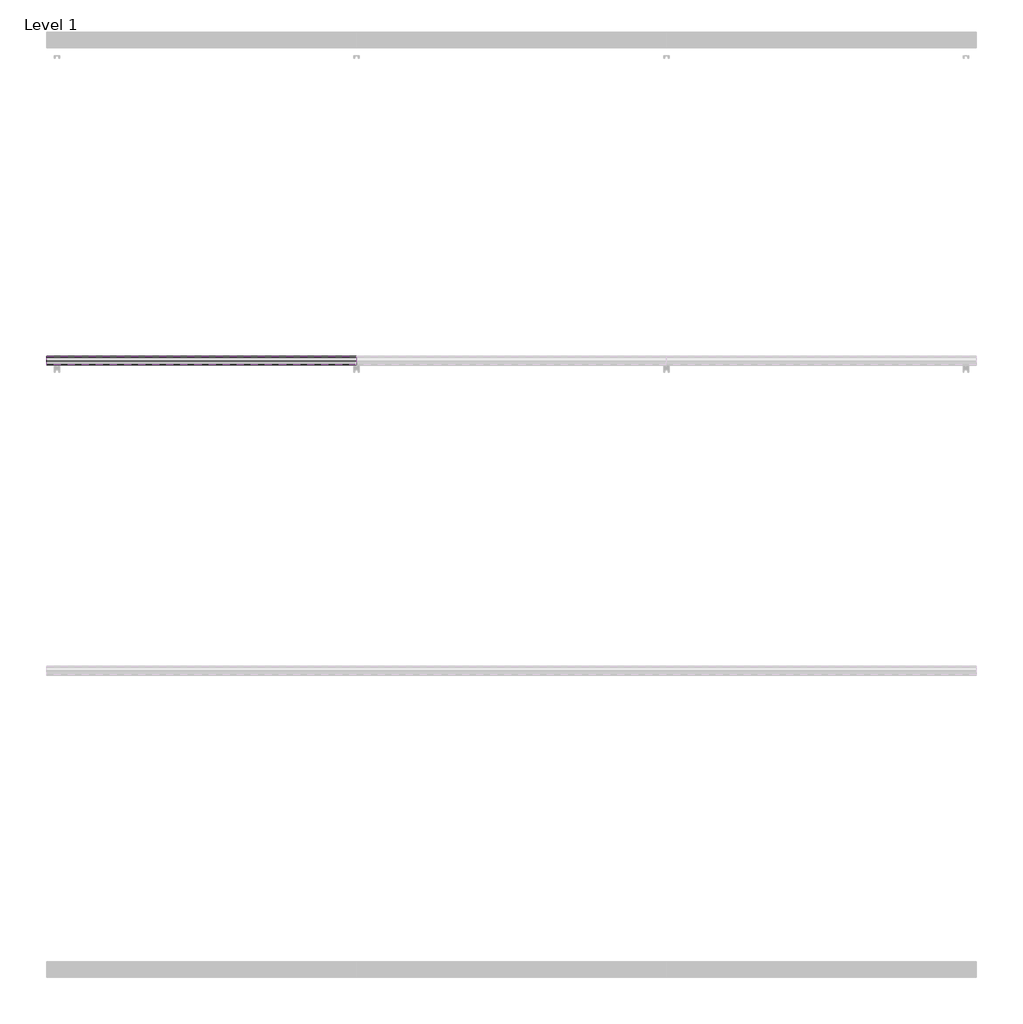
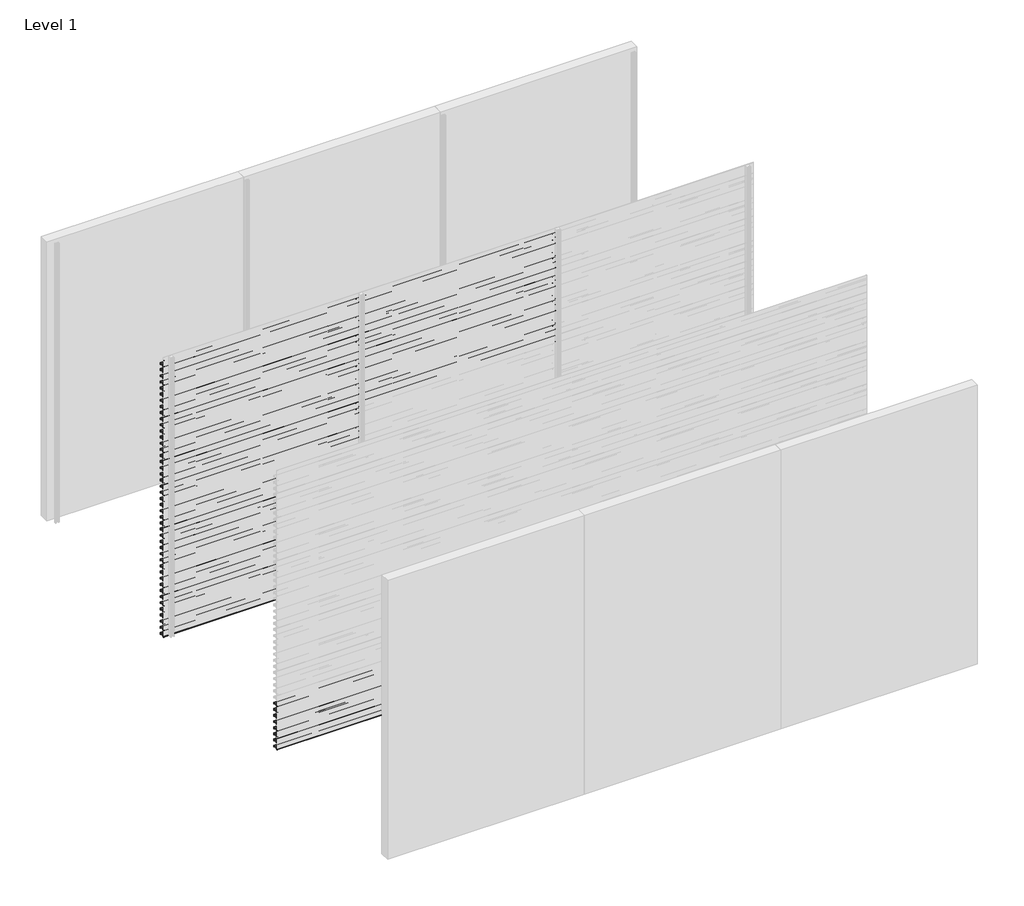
# One storey, part 21 of 27: 71 proxies.
"""IFC4 building model written with IfcOpenShell, lengths in millimetres."""

from ifc_helpers import new_model, si_unit, frame, origin, place, context, project, spatial, polyline, outline, extrude, element, save

model = new_model("IFC4")

# Units and contexts
model_context = context("Model", 3, world=origin())
ifc_project = project(units=[si_unit("LENGTHUNIT", "METRE", prefix="MILLI")], contexts=[model_context])

# Site, building, storey
site = spatial("IfcSite", under=ifc_project)
building = spatial("IfcBuilding", under=site)
storey = spatial("IfcBuildingStorey", under=building, Name="Level 1", Elevation=0.0)

# Proxies
placement = place(None, origin())
element("IfcBuildingElementProxy", 1, Name="Wall Sweeps", at=placement, inside=storey, context=model_context, shape_type="SweptSolid", body=[
    extrude(outline(polyline([(-11943.0, 2913.2), (-11943.0, 2893.5), (-11944.25, 2894.5866084), (-11944.25, 2912.4872415), (-11963.0322086, 2925.6010889), (-11995.1332975, 2893.5), (-11996.0525363, 2894.4192388), (-11964.1148087, 2926.3569665), (-11998.0, 2950.0158044), (-11998.0, 2970.0), (-11996.75, 2970.0), (-11996.75, 2950.7285629), (-11943.0, 2913.2)])), frame((0.0, 0.0, 0.0), z_axis=(1.0, 0.0, 0.0), x_axis=(0.0, 1.0, 0.0)), (0.0, 0.0, 1.0), 2000.0),
])
element("IfcBuildingElementProxy", 2, Name="Wall Sweeps", at=placement, inside=storey, context=model_context, shape_type="SweptSolid", body=[
    extrude(outline(polyline([(-11943.0, 2847.2), (-11943.0, 2827.5), (-11944.25, 2828.5866084), (-11944.25, 2846.4872415), (-11963.0322086, 2859.6010889), (-11995.1332975, 2827.5), (-11996.0525363, 2828.4192388), (-11964.1148087, 2860.3569665), (-11998.0, 2884.0158044), (-11998.0, 2904.0), (-11996.75, 2904.0), (-11996.75, 2884.7285629), (-11943.0, 2847.2)])), frame((0.0, 0.0, 0.0), z_axis=(1.0, 0.0, 0.0), x_axis=(0.0, 1.0, 0.0)), (0.0, 0.0, 1.0), 2000.0),
])
element("IfcBuildingElementProxy", 3, Name="Wall Sweeps", at=placement, inside=storey, context=model_context, shape_type="SweptSolid", body=[
    extrude(outline(polyline([(-11943.0, 2781.2), (-11943.0, 2761.5), (-11944.25, 2762.5866084), (-11944.25, 2780.4872415), (-11963.0322086, 2793.6010889), (-11995.1332975, 2761.5), (-11996.0525363, 2762.4192388), (-11964.1148087, 2794.3569665), (-11998.0, 2818.0158044), (-11998.0, 2838.0), (-11996.75, 2838.0), (-11996.75, 2818.7285629), (-11943.0, 2781.2)])), frame((0.0, 0.0, 0.0), z_axis=(1.0, 0.0, 0.0), x_axis=(0.0, 1.0, 0.0)), (0.0, 0.0, 1.0), 2000.0),
])
element("IfcBuildingElementProxy", 4, Name="Wall Sweeps", at=placement, inside=storey, context=model_context, shape_type="SweptSolid", body=[
    extrude(outline(polyline([(-11943.0, 2715.2), (-11943.0, 2695.5), (-11944.25, 2696.5866084), (-11944.25, 2714.4872415), (-11963.0322086, 2727.6010889), (-11995.1332975, 2695.5), (-11996.0525363, 2696.4192388), (-11964.1148087, 2728.3569665), (-11998.0, 2752.0158044), (-11998.0, 2772.0), (-11996.75, 2772.0), (-11996.75, 2752.7285629), (-11943.0, 2715.2)])), frame((0.0, 0.0, 0.0), z_axis=(1.0, 0.0, 0.0), x_axis=(0.0, 1.0, 0.0)), (0.0, 0.0, 1.0), 2000.0),
])
element("IfcBuildingElementProxy", 5, Name="Wall Sweeps", at=placement, inside=storey, context=model_context, shape_type="SweptSolid", body=[
    extrude(outline(polyline([(-11943.0, 2649.2), (-11943.0, 2629.5), (-11944.25, 2630.5866084), (-11944.25, 2648.4872415), (-11963.0322086, 2661.6010889), (-11995.1332975, 2629.5), (-11996.0525363, 2630.4192388), (-11964.1148087, 2662.3569665), (-11998.0, 2686.0158044), (-11998.0, 2706.0), (-11996.75, 2706.0), (-11996.75, 2686.7285629), (-11943.0, 2649.2)])), frame((0.0, 0.0, 0.0), z_axis=(1.0, 0.0, 0.0), x_axis=(0.0, 1.0, 0.0)), (0.0, 0.0, 1.0), 2000.0),
])
element("IfcBuildingElementProxy", 6, Name="Wall Sweeps", at=placement, inside=storey, context=model_context, shape_type="SweptSolid", body=[
    extrude(outline(polyline([(-11943.0, 2583.2), (-11943.0, 2563.5), (-11944.25, 2564.5866084), (-11944.25, 2582.4872415), (-11963.0322086, 2595.6010889), (-11995.1332975, 2563.5), (-11996.0525363, 2564.4192388), (-11964.1148087, 2596.3569665), (-11998.0, 2620.0158044), (-11998.0, 2640.0), (-11996.75, 2640.0), (-11996.75, 2620.7285629), (-11943.0, 2583.2)])), frame((0.0, 0.0, 0.0), z_axis=(1.0, 0.0, 0.0), x_axis=(0.0, 1.0, 0.0)), (0.0, 0.0, 1.0), 2000.0),
])
element("IfcBuildingElementProxy", 7, Name="Wall Sweeps", at=placement, inside=storey, context=model_context, shape_type="SweptSolid", body=[
    extrude(outline(polyline([(-11943.0, 2517.2), (-11943.0, 2497.5), (-11944.25, 2498.5866084), (-11944.25, 2516.4872415), (-11963.0322086, 2529.6010889), (-11995.1332975, 2497.5), (-11996.0525363, 2498.4192388), (-11964.1148087, 2530.3569665), (-11998.0, 2554.0158044), (-11998.0, 2574.0), (-11996.75, 2574.0), (-11996.75, 2554.7285629), (-11943.0, 2517.2)])), frame((0.0, 0.0, 0.0), z_axis=(1.0, 0.0, 0.0), x_axis=(0.0, 1.0, 0.0)), (0.0, 0.0, 1.0), 2000.0),
])
element("IfcBuildingElementProxy", 8, Name="Wall Sweeps", at=placement, inside=storey, context=model_context, shape_type="SweptSolid", body=[
    extrude(outline(polyline([(-11943.0, 2451.2), (-11943.0, 2431.5), (-11944.25, 2432.5866084), (-11944.25, 2450.4872415), (-11963.0322086, 2463.6010889), (-11995.1332975, 2431.5), (-11996.0525363, 2432.4192388), (-11964.1148087, 2464.3569665), (-11998.0, 2488.0158044), (-11998.0, 2508.0), (-11996.75, 2508.0), (-11996.75, 2488.7285629), (-11943.0, 2451.2)])), frame((0.0, 0.0, 0.0), z_axis=(1.0, 0.0, 0.0), x_axis=(0.0, 1.0, 0.0)), (0.0, 0.0, 1.0), 2000.0),
])
element("IfcBuildingElementProxy", 9, Name="Wall Sweeps", at=placement, inside=storey, context=model_context, shape_type="SweptSolid", body=[
    extrude(outline(polyline([(-11943.0, 2385.2), (-11943.0, 2365.5), (-11944.25, 2366.5866084), (-11944.25, 2384.4872415), (-11963.0322086, 2397.6010889), (-11995.1332975, 2365.5), (-11996.0525363, 2366.4192388), (-11964.1148087, 2398.3569665), (-11998.0, 2422.0158044), (-11998.0, 2442.0), (-11996.75, 2442.0), (-11996.75, 2422.7285629), (-11943.0, 2385.2)])), frame((0.0, 0.0, 0.0), z_axis=(1.0, 0.0, 0.0), x_axis=(0.0, 1.0, 0.0)), (0.0, 0.0, 1.0), 2000.0),
])
element("IfcBuildingElementProxy", 10, Name="Wall Sweeps", at=placement, inside=storey, context=model_context, shape_type="SweptSolid", body=[
    extrude(outline(polyline([(-11943.0, 2319.2), (-11943.0, 2299.5), (-11944.25, 2300.5866084), (-11944.25, 2318.4872415), (-11963.0322086, 2331.6010889), (-11995.1332975, 2299.5), (-11996.0525363, 2300.4192388), (-11964.1148087, 2332.3569665), (-11998.0, 2356.0158044), (-11998.0, 2376.0), (-11996.75, 2376.0), (-11996.75, 2356.7285629), (-11943.0, 2319.2)])), frame((0.0, 0.0, 0.0), z_axis=(1.0, 0.0, 0.0), x_axis=(0.0, 1.0, 0.0)), (0.0, 0.0, 1.0), 2000.0),
])
element("IfcBuildingElementProxy", 11, Name="Wall Sweeps", at=placement, inside=storey, context=model_context, shape_type="SweptSolid", body=[
    extrude(outline(polyline([(-11943.0, 2253.2), (-11943.0, 2233.5), (-11944.25, 2234.5866084), (-11944.25, 2252.4872415), (-11963.0322086, 2265.6010889), (-11995.1332975, 2233.5), (-11996.0525363, 2234.4192388), (-11964.1148087, 2266.3569665), (-11998.0, 2290.0158044), (-11998.0, 2310.0), (-11996.75, 2310.0), (-11996.75, 2290.7285629), (-11943.0, 2253.2)])), frame((0.0, 0.0, 0.0), z_axis=(1.0, 0.0, 0.0), x_axis=(0.0, 1.0, 0.0)), (0.0, 0.0, 1.0), 2000.0),
])
element("IfcBuildingElementProxy", 12, Name="Wall Sweeps", at=placement, inside=storey, context=model_context, shape_type="SweptSolid", body=[
    extrude(outline(polyline([(-11943.0, 2187.2), (-11943.0, 2167.5), (-11944.25, 2168.5866084), (-11944.25, 2186.4872415), (-11963.0322086, 2199.6010889), (-11995.1332975, 2167.5), (-11996.0525363, 2168.4192388), (-11964.1148087, 2200.3569665), (-11998.0, 2224.0158044), (-11998.0, 2244.0), (-11996.75, 2244.0), (-11996.75, 2224.7285629), (-11943.0, 2187.2)])), frame((0.0, 0.0, 0.0), z_axis=(1.0, 0.0, 0.0), x_axis=(0.0, 1.0, 0.0)), (0.0, 0.0, 1.0), 2000.0),
])
element("IfcBuildingElementProxy", 13, Name="Wall Sweeps", at=placement, inside=storey, context=model_context, shape_type="SweptSolid", body=[
    extrude(outline(polyline([(-11943.0, 2121.2), (-11943.0, 2101.5), (-11944.25, 2102.5866084), (-11944.25, 2120.4872415), (-11963.0322086, 2133.6010889), (-11995.1332975, 2101.5), (-11996.0525363, 2102.4192388), (-11964.1148087, 2134.3569665), (-11998.0, 2158.0158044), (-11998.0, 2178.0), (-11996.75, 2178.0), (-11996.75, 2158.7285629), (-11943.0, 2121.2)])), frame((0.0, 0.0, 0.0), z_axis=(1.0, 0.0, 0.0), x_axis=(0.0, 1.0, 0.0)), (0.0, 0.0, 1.0), 2000.0),
])
element("IfcBuildingElementProxy", 14, Name="Wall Sweeps", at=placement, inside=storey, context=model_context, shape_type="SweptSolid", body=[
    extrude(outline(polyline([(-11943.0, 2055.2), (-11943.0, 2035.5), (-11944.25, 2036.5866084), (-11944.25, 2054.4872415), (-11963.0322086, 2067.6010889), (-11995.1332975, 2035.5), (-11996.0525363, 2036.4192388), (-11964.1148087, 2068.3569665), (-11998.0, 2092.0158044), (-11998.0, 2112.0), (-11996.75, 2112.0), (-11996.75, 2092.7285629), (-11943.0, 2055.2)])), frame((0.0, 0.0, 0.0), z_axis=(1.0, 0.0, 0.0), x_axis=(0.0, 1.0, 0.0)), (0.0, 0.0, 1.0), 2000.0),
])
element("IfcBuildingElementProxy", 15, Name="Wall Sweeps", at=placement, inside=storey, context=model_context, shape_type="SweptSolid", body=[
    extrude(outline(polyline([(-11943.0, 1989.2), (-11943.0, 1969.5), (-11944.25, 1970.5866084), (-11944.25, 1988.4872415), (-11963.0322086, 2001.6010889), (-11995.1332975, 1969.5), (-11996.0525363, 1970.4192388), (-11964.1148087, 2002.3569665), (-11998.0, 2026.0158044), (-11998.0, 2046.0), (-11996.75, 2046.0), (-11996.75, 2026.7285629), (-11943.0, 1989.2)])), frame((0.0, 0.0, 0.0), z_axis=(1.0, 0.0, 0.0), x_axis=(0.0, 1.0, 0.0)), (0.0, 0.0, 1.0), 2000.0),
])
element("IfcBuildingElementProxy", 16, Name="Wall Sweeps", at=placement, inside=storey, context=model_context, shape_type="SweptSolid", body=[
    extrude(outline(polyline([(-11943.0, 1923.2), (-11943.0, 1903.5), (-11944.25, 1904.5866084), (-11944.25, 1922.4872415), (-11963.0322086, 1935.6010889), (-11995.1332975, 1903.5), (-11996.0525363, 1904.4192388), (-11964.1148087, 1936.3569665), (-11998.0, 1960.0158044), (-11998.0, 1980.0), (-11996.75, 1980.0), (-11996.75, 1960.7285629), (-11943.0, 1923.2)])), frame((0.0, 0.0, 0.0), z_axis=(1.0, 0.0, 0.0), x_axis=(0.0, 1.0, 0.0)), (0.0, 0.0, 1.0), 2000.0),
])
element("IfcBuildingElementProxy", 17, Name="Wall Sweeps", at=placement, inside=storey, context=model_context, shape_type="SweptSolid", body=[
    extrude(outline(polyline([(-11943.0, 1857.2), (-11943.0, 1837.5), (-11944.25, 1838.5866084), (-11944.25, 1856.4872415), (-11963.0322086, 1869.6010889), (-11995.1332975, 1837.5), (-11996.0525363, 1838.4192388), (-11964.1148087, 1870.3569665), (-11998.0, 1894.0158044), (-11998.0, 1914.0), (-11996.75, 1914.0), (-11996.75, 1894.7285629), (-11943.0, 1857.2)])), frame((0.0, 0.0, 0.0), z_axis=(1.0, 0.0, 0.0), x_axis=(0.0, 1.0, 0.0)), (0.0, 0.0, 1.0), 2000.0),
])
element("IfcBuildingElementProxy", 18, Name="Wall Sweeps", at=placement, inside=storey, context=model_context, shape_type="SweptSolid", body=[
    extrude(outline(polyline([(-11943.0, 1791.2), (-11943.0, 1771.5), (-11944.25, 1772.5866084), (-11944.25, 1790.4872415), (-11963.0322086, 1803.6010889), (-11995.1332975, 1771.5), (-11996.0525363, 1772.4192388), (-11964.1148087, 1804.3569665), (-11998.0, 1828.0158044), (-11998.0, 1848.0), (-11996.75, 1848.0), (-11996.75, 1828.7285629), (-11943.0, 1791.2)])), frame((0.0, 0.0, 0.0), z_axis=(1.0, 0.0, 0.0), x_axis=(0.0, 1.0, 0.0)), (0.0, 0.0, 1.0), 2000.0),
])
element("IfcBuildingElementProxy", 19, Name="Wall Sweeps", at=placement, inside=storey, context=model_context, shape_type="SweptSolid", body=[
    extrude(outline(polyline([(-11943.0, 1725.2), (-11943.0, 1705.5), (-11944.25, 1706.5866084), (-11944.25, 1724.4872415), (-11963.0322086, 1737.6010889), (-11995.1332975, 1705.5), (-11996.0525363, 1706.4192388), (-11964.1148087, 1738.3569665), (-11998.0, 1762.0158044), (-11998.0, 1782.0), (-11996.75, 1782.0), (-11996.75, 1762.7285629), (-11943.0, 1725.2)])), frame((0.0, 0.0, 0.0), z_axis=(1.0, 0.0, 0.0), x_axis=(0.0, 1.0, 0.0)), (0.0, 0.0, 1.0), 2000.0),
])
element("IfcBuildingElementProxy", 20, Name="Wall Sweeps", at=placement, inside=storey, context=model_context, shape_type="SweptSolid", body=[
    extrude(outline(polyline([(-11943.0, 1659.2), (-11943.0, 1639.5), (-11944.25, 1640.5866084), (-11944.25, 1658.4872415), (-11963.0322086, 1671.6010889), (-11995.1332975, 1639.5), (-11996.0525363, 1640.4192388), (-11964.1148087, 1672.3569665), (-11998.0, 1696.0158044), (-11998.0, 1716.0), (-11996.75, 1716.0), (-11996.75, 1696.7285629), (-11943.0, 1659.2)])), frame((0.0, 0.0, 0.0), z_axis=(1.0, 0.0, 0.0), x_axis=(0.0, 1.0, 0.0)), (0.0, 0.0, 1.0), 2000.0),
])
element("IfcBuildingElementProxy", 21, Name="Wall Sweeps", at=placement, inside=storey, context=model_context, shape_type="SweptSolid", body=[
    extrude(outline(polyline([(-11943.0, 1593.2), (-11943.0, 1573.5), (-11944.25, 1574.5866084), (-11944.25, 1592.4872415), (-11963.0322086, 1605.6010889), (-11995.1332975, 1573.5), (-11996.0525363, 1574.4192388), (-11964.1148087, 1606.3569665), (-11998.0, 1630.0158044), (-11998.0, 1650.0), (-11996.75, 1650.0), (-11996.75, 1630.7285629), (-11943.0, 1593.2)])), frame((0.0, 0.0, 0.0), z_axis=(1.0, 0.0, 0.0), x_axis=(0.0, 1.0, 0.0)), (0.0, 0.0, 1.0), 2000.0),
])
element("IfcBuildingElementProxy", 22, Name="Wall Sweeps", at=placement, inside=storey, context=model_context, shape_type="SweptSolid", body=[
    extrude(outline(polyline([(-11943.0, 1527.2), (-11943.0, 1507.5), (-11944.25, 1508.5866084), (-11944.25, 1526.4872415), (-11963.0322086, 1539.6010889), (-11995.1332975, 1507.5), (-11996.0525363, 1508.4192388), (-11964.1148087, 1540.3569665), (-11998.0, 1564.0158044), (-11998.0, 1584.0), (-11996.75, 1584.0), (-11996.75, 1564.7285629), (-11943.0, 1527.2)])), frame((0.0, 0.0, 0.0), z_axis=(1.0, 0.0, 0.0), x_axis=(0.0, 1.0, 0.0)), (0.0, 0.0, 1.0), 2000.0),
])
element("IfcBuildingElementProxy", 23, Name="Wall Sweeps", at=placement, inside=storey, context=model_context, shape_type="SweptSolid", body=[
    extrude(outline(polyline([(-11943.0, 1461.2), (-11943.0, 1441.5), (-11944.25, 1442.5866084), (-11944.25, 1460.4872415), (-11963.0322086, 1473.6010889), (-11995.1332975, 1441.5), (-11996.0525363, 1442.4192388), (-11964.1148087, 1474.3569665), (-11998.0, 1498.0158044), (-11998.0, 1518.0), (-11996.75, 1518.0), (-11996.75, 1498.7285629), (-11943.0, 1461.2)])), frame((0.0, 0.0, 0.0), z_axis=(1.0, 0.0, 0.0), x_axis=(0.0, 1.0, 0.0)), (0.0, 0.0, 1.0), 2000.0),
])
element("IfcBuildingElementProxy", 24, Name="Wall Sweeps", at=placement, inside=storey, context=model_context, shape_type="SweptSolid", body=[
    extrude(outline(polyline([(-11943.0, 1395.2), (-11943.0, 1375.5), (-11944.25, 1376.5866084), (-11944.25, 1394.4872415), (-11963.0322086, 1407.6010889), (-11995.1332975, 1375.5), (-11996.0525363, 1376.4192388), (-11964.1148087, 1408.3569665), (-11998.0, 1432.0158044), (-11998.0, 1452.0), (-11996.75, 1452.0), (-11996.75, 1432.7285629), (-11943.0, 1395.2)])), frame((0.0, 0.0, 0.0), z_axis=(1.0, 0.0, 0.0), x_axis=(0.0, 1.0, 0.0)), (0.0, 0.0, 1.0), 2000.0),
])
element("IfcBuildingElementProxy", 25, Name="Wall Sweeps", at=placement, inside=storey, context=model_context, shape_type="SweptSolid", body=[
    extrude(outline(polyline([(-11943.0, 1329.2), (-11943.0, 1309.5), (-11944.25, 1310.5866084), (-11944.25, 1328.4872415), (-11963.0322086, 1341.6010889), (-11995.1332975, 1309.5), (-11996.0525363, 1310.4192388), (-11964.1148087, 1342.3569665), (-11998.0, 1366.0158044), (-11998.0, 1386.0), (-11996.75, 1386.0), (-11996.75, 1366.7285629), (-11943.0, 1329.2)])), frame((0.0, 0.0, 0.0), z_axis=(1.0, 0.0, 0.0), x_axis=(0.0, 1.0, 0.0)), (0.0, 0.0, 1.0), 2000.0),
])
element("IfcBuildingElementProxy", 26, Name="Wall Sweeps", at=placement, inside=storey, context=model_context, shape_type="SweptSolid", body=[
    extrude(outline(polyline([(-11943.0, 1263.2), (-11943.0, 1243.5), (-11944.25, 1244.5866084), (-11944.25, 1262.4872415), (-11963.0322086, 1275.6010889), (-11995.1332975, 1243.5), (-11996.0525363, 1244.4192388), (-11964.1148087, 1276.3569665), (-11998.0, 1300.0158044), (-11998.0, 1320.0), (-11996.75, 1320.0), (-11996.75, 1300.7285629), (-11943.0, 1263.2)])), frame((0.0, 0.0, 0.0), z_axis=(1.0, 0.0, 0.0), x_axis=(0.0, 1.0, 0.0)), (0.0, 0.0, 1.0), 2000.0),
])
element("IfcBuildingElementProxy", 27, Name="Wall Sweeps", at=placement, inside=storey, context=model_context, shape_type="SweptSolid", body=[
    extrude(outline(polyline([(-11943.0, 1197.2), (-11943.0, 1177.5), (-11944.25, 1178.5866084), (-11944.25, 1196.4872415), (-11963.0322086, 1209.6010889), (-11995.1332975, 1177.5), (-11996.0525363, 1178.4192388), (-11964.1148087, 1210.3569665), (-11998.0, 1234.0158044), (-11998.0, 1254.0), (-11996.75, 1254.0), (-11996.75, 1234.7285629), (-11943.0, 1197.2)])), frame((0.0, 0.0, 0.0), z_axis=(1.0, 0.0, 0.0), x_axis=(0.0, 1.0, 0.0)), (0.0, 0.0, 1.0), 2000.0),
])
element("IfcBuildingElementProxy", 28, Name="Wall Sweeps", at=placement, inside=storey, context=model_context, shape_type="SweptSolid", body=[
    extrude(outline(polyline([(-11943.0, 1131.2), (-11943.0, 1111.5), (-11944.25, 1112.5866084), (-11944.25, 1130.4872415), (-11963.0322086, 1143.6010889), (-11995.1332975, 1111.5), (-11996.0525363, 1112.4192388), (-11964.1148087, 1144.3569665), (-11998.0, 1168.0158044), (-11998.0, 1188.0), (-11996.75, 1188.0), (-11996.75, 1168.7285629), (-11943.0, 1131.2)])), frame((0.0, 0.0, 0.0), z_axis=(1.0, 0.0, 0.0), x_axis=(0.0, 1.0, 0.0)), (0.0, 0.0, 1.0), 2000.0),
])
element("IfcBuildingElementProxy", 29, Name="Wall Sweeps", at=placement, inside=storey, context=model_context, shape_type="SweptSolid", body=[
    extrude(outline(polyline([(-11943.0, 1065.2), (-11943.0, 1045.5), (-11944.25, 1046.5866084), (-11944.25, 1064.4872415), (-11963.0322086, 1077.6010889), (-11995.1332975, 1045.5), (-11996.0525363, 1046.4192388), (-11964.1148087, 1078.3569665), (-11998.0, 1102.0158044), (-11998.0, 1122.0), (-11996.75, 1122.0), (-11996.75, 1102.7285629), (-11943.0, 1065.2)])), frame((0.0, 0.0, 0.0), z_axis=(1.0, 0.0, 0.0), x_axis=(0.0, 1.0, 0.0)), (0.0, 0.0, 1.0), 2000.0),
])
element("IfcBuildingElementProxy", 30, Name="Wall Sweeps", at=placement, inside=storey, context=model_context, shape_type="SweptSolid", body=[
    extrude(outline(polyline([(-11943.0, 999.2), (-11943.0, 979.5), (-11944.25, 980.5866084), (-11944.25, 998.4872415), (-11963.0322086, 1011.6010889), (-11995.1332975, 979.5), (-11996.0525363, 980.4192388), (-11964.1148087, 1012.3569665), (-11998.0, 1036.0158044), (-11998.0, 1056.0), (-11996.75, 1056.0), (-11996.75, 1036.7285629), (-11943.0, 999.2)])), frame((0.0, 0.0, 0.0), z_axis=(1.0, 0.0, 0.0), x_axis=(0.0, 1.0, 0.0)), (0.0, 0.0, 1.0), 2000.0),
])
element("IfcBuildingElementProxy", 31, Name="Wall Sweeps", at=placement, inside=storey, context=model_context, shape_type="SweptSolid", body=[
    extrude(outline(polyline([(-11943.0, 933.2), (-11943.0, 913.5), (-11944.25, 914.5866084), (-11944.25, 932.4872415), (-11963.0322086, 945.6010889), (-11995.1332975, 913.5), (-11996.0525363, 914.4192388), (-11964.1148087, 946.3569665), (-11998.0, 970.0158044), (-11998.0, 990.0), (-11996.75, 990.0), (-11996.75, 970.7285629), (-11943.0, 933.2)])), frame((0.0, 0.0, 0.0), z_axis=(1.0, 0.0, 0.0), x_axis=(0.0, 1.0, 0.0)), (0.0, 0.0, 1.0), 2000.0),
])
element("IfcBuildingElementProxy", 32, Name="Wall Sweeps", at=placement, inside=storey, context=model_context, shape_type="SweptSolid", body=[
    extrude(outline(polyline([(-11943.0, 867.2), (-11943.0, 847.5), (-11944.25, 848.5866084), (-11944.25, 866.4872415), (-11963.0322086, 879.6010889), (-11995.1332975, 847.5), (-11996.0525363, 848.4192388), (-11964.1148087, 880.3569665), (-11998.0, 904.0158044), (-11998.0, 924.0), (-11996.75, 924.0), (-11996.75, 904.7285629), (-11943.0, 867.2)])), frame((0.0, 0.0, 0.0), z_axis=(1.0, 0.0, 0.0), x_axis=(0.0, 1.0, 0.0)), (0.0, 0.0, 1.0), 2000.0),
])
element("IfcBuildingElementProxy", 33, Name="Wall Sweeps", at=placement, inside=storey, context=model_context, shape_type="SweptSolid", body=[
    extrude(outline(polyline([(-11943.0, 801.2), (-11943.0, 781.5), (-11944.25, 782.5866084), (-11944.25, 800.4872415), (-11963.0322086, 813.6010889), (-11995.1332975, 781.5), (-11996.0525363, 782.4192388), (-11964.1148087, 814.3569665), (-11998.0, 838.0158044), (-11998.0, 858.0), (-11996.75, 858.0), (-11996.75, 838.7285629), (-11943.0, 801.2)])), frame((0.0, 0.0, 0.0), z_axis=(1.0, 0.0, 0.0), x_axis=(0.0, 1.0, 0.0)), (0.0, 0.0, 1.0), 2000.0),
])
element("IfcBuildingElementProxy", 34, Name="Wall Sweeps", at=placement, inside=storey, context=model_context, shape_type="SweptSolid", body=[
    extrude(outline(polyline([(-11943.0, 735.2), (-11943.0, 715.5), (-11944.25, 716.5866084), (-11944.25, 734.4872415), (-11963.0322086, 747.6010889), (-11995.1332975, 715.5), (-11996.0525363, 716.4192388), (-11964.1148087, 748.3569665), (-11998.0, 772.0158044), (-11998.0, 792.0), (-11996.75, 792.0), (-11996.75, 772.7285629), (-11943.0, 735.2)])), frame((0.0, 0.0, 0.0), z_axis=(1.0, 0.0, 0.0), x_axis=(0.0, 1.0, 0.0)), (0.0, 0.0, 1.0), 2000.0),
])
element("IfcBuildingElementProxy", 35, Name="Wall Sweeps", at=placement, inside=storey, context=model_context, shape_type="SweptSolid", body=[
    extrude(outline(polyline([(-11943.0, 669.2), (-11943.0, 649.5), (-11944.25, 650.5866084), (-11944.25, 668.4872415), (-11963.0322086, 681.6010889), (-11995.1332975, 649.5), (-11996.0525363, 650.4192388), (-11964.1148087, 682.3569665), (-11998.0, 706.0158044), (-11998.0, 726.0), (-11996.75, 726.0), (-11996.75, 706.7285629), (-11943.0, 669.2)])), frame((0.0, 0.0, 0.0), z_axis=(1.0, 0.0, 0.0), x_axis=(0.0, 1.0, 0.0)), (0.0, 0.0, 1.0), 2000.0),
])
element("IfcBuildingElementProxy", 36, Name="Wall Sweeps", at=placement, inside=storey, context=model_context, shape_type="SweptSolid", body=[
    extrude(outline(polyline([(-11943.0, 603.2), (-11943.0, 583.5), (-11944.25, 584.5866084), (-11944.25, 602.4872415), (-11963.0322086, 615.6010889), (-11995.1332975, 583.5), (-11996.0525363, 584.4192388), (-11964.1148087, 616.3569665), (-11998.0, 640.0158044), (-11998.0, 660.0), (-11996.75, 660.0), (-11996.75, 640.7285629), (-11943.0, 603.2)])), frame((0.0, 0.0, 0.0), z_axis=(1.0, 0.0, 0.0), x_axis=(0.0, 1.0, 0.0)), (0.0, 0.0, 1.0), 2000.0),
])
element("IfcBuildingElementProxy", 37, Name="Wall Sweeps", at=placement, inside=storey, context=model_context, shape_type="SweptSolid", body=[
    extrude(outline(polyline([(-11943.0, 537.2), (-11943.0, 517.5), (-11944.25, 518.5866084), (-11944.25, 536.4872415), (-11963.0322086, 549.6010889), (-11995.1332975, 517.5), (-11996.0525363, 518.4192388), (-11964.1148087, 550.3569665), (-11998.0, 574.0158044), (-11998.0, 594.0), (-11996.75, 594.0), (-11996.75, 574.7285629), (-11943.0, 537.2)])), frame((0.0, 0.0, 0.0), z_axis=(1.0, 0.0, 0.0), x_axis=(0.0, 1.0, 0.0)), (0.0, 0.0, 1.0), 2000.0),
])
element("IfcBuildingElementProxy", 38, Name="Wall Sweeps", at=placement, inside=storey, context=model_context, shape_type="SweptSolid", body=[
    extrude(outline(polyline([(-11943.0, 471.2), (-11943.0, 451.5), (-11944.25, 452.5866084), (-11944.25, 470.4872415), (-11963.0322086, 483.6010889), (-11995.1332975, 451.5), (-11996.0525363, 452.4192388), (-11964.1148087, 484.3569665), (-11998.0, 508.0158044), (-11998.0, 528.0), (-11996.75, 528.0), (-11996.75, 508.7285629), (-11943.0, 471.2)])), frame((0.0, 0.0, 0.0), z_axis=(1.0, 0.0, 0.0), x_axis=(0.0, 1.0, 0.0)), (0.0, 0.0, 1.0), 2000.0),
])
element("IfcBuildingElementProxy", 39, Name="Wall Sweeps", at=placement, inside=storey, context=model_context, shape_type="SweptSolid", body=[
    extrude(outline(polyline([(-11943.0, 405.2), (-11943.0, 385.5), (-11944.25, 386.5866084), (-11944.25, 404.4872415), (-11963.0322086, 417.6010889), (-11995.1332975, 385.5), (-11996.0525363, 386.4192388), (-11964.1148087, 418.3569665), (-11998.0, 442.0158044), (-11998.0, 462.0), (-11996.75, 462.0), (-11996.75, 442.7285629), (-11943.0, 405.2)])), frame((0.0, 0.0, 0.0), z_axis=(1.0, 0.0, 0.0), x_axis=(0.0, 1.0, 0.0)), (0.0, 0.0, 1.0), 2000.0),
])
element("IfcBuildingElementProxy", 40, Name="Wall Sweeps", at=placement, inside=storey, context=model_context, shape_type="SweptSolid", body=[
    extrude(outline(polyline([(-11943.0, 339.2), (-11943.0, 319.5), (-11944.25, 320.5866084), (-11944.25, 338.4872415), (-11963.0322086, 351.6010889), (-11995.1332975, 319.5), (-11996.0525363, 320.4192388), (-11964.1148087, 352.3569665), (-11998.0, 376.0158044), (-11998.0, 396.0), (-11996.75, 396.0), (-11996.75, 376.7285629), (-11943.0, 339.2)])), frame((0.0, 0.0, 0.0), z_axis=(1.0, 0.0, 0.0), x_axis=(0.0, 1.0, 0.0)), (0.0, 0.0, 1.0), 2000.0),
])
element("IfcBuildingElementProxy", 41, Name="Wall Sweeps", at=placement, inside=storey, context=model_context, shape_type="SweptSolid", body=[
    extrude(outline(polyline([(-11943.0, 273.2), (-11943.0, 253.5), (-11944.25, 254.5866084), (-11944.25, 272.4872415), (-11963.0322086, 285.6010889), (-11995.1332975, 253.5), (-11996.0525363, 254.4192388), (-11964.1148087, 286.3569665), (-11998.0, 310.0158044), (-11998.0, 330.0), (-11996.75, 330.0), (-11996.75, 310.7285629), (-11943.0, 273.2)])), frame((0.0, 0.0, 0.0), z_axis=(1.0, 0.0, 0.0), x_axis=(0.0, 1.0, 0.0)), (0.0, 0.0, 1.0), 2000.0),
])
element("IfcBuildingElementProxy", 42, Name="Wall Sweeps", at=placement, inside=storey, context=model_context, shape_type="SweptSolid", body=[
    extrude(outline(polyline([(-11943.0, 207.2), (-11943.0, 187.5), (-11944.25, 188.5866084), (-11944.25, 206.4872415), (-11963.0322086, 219.6010889), (-11995.1332975, 187.5), (-11996.0525363, 188.4192388), (-11964.1148087, 220.3569665), (-11998.0, 244.0158044), (-11998.0, 264.0), (-11996.75, 264.0), (-11996.75, 244.7285629), (-11943.0, 207.2)])), frame((0.0, 0.0, 0.0), z_axis=(1.0, 0.0, 0.0), x_axis=(0.0, 1.0, 0.0)), (0.0, 0.0, 1.0), 2000.0),
])
element("IfcBuildingElementProxy", 43, Name="Wall Sweeps", at=placement, inside=storey, context=model_context, shape_type="SweptSolid", body=[
    extrude(outline(polyline([(-11943.0, 141.2), (-11943.0, 121.5), (-11944.25, 122.5866084), (-11944.25, 140.4872415), (-11963.0322086, 153.6010889), (-11995.1332975, 121.5), (-11996.0525363, 122.4192388), (-11964.1148087, 154.3569665), (-11998.0, 178.0158044), (-11998.0, 198.0), (-11996.75, 198.0), (-11996.75, 178.7285629), (-11943.0, 141.2)])), frame((0.0, 0.0, 0.0), z_axis=(1.0, 0.0, 0.0), x_axis=(0.0, 1.0, 0.0)), (0.0, 0.0, 1.0), 2000.0),
])
element("IfcBuildingElementProxy", 44, Name="Wall Sweeps", at=placement, inside=storey, context=model_context, shape_type="SweptSolid", body=[
    extrude(outline(polyline([(-11943.0, 75.2), (-11943.0, 55.5), (-11944.25, 56.5866084), (-11944.25, 74.4872415), (-11963.0322086, 87.6010889), (-11995.1332975, 55.5), (-11996.0525363, 56.4192388), (-11964.1148087, 88.3569665), (-11998.0, 112.0158044), (-11998.0, 132.0), (-11996.75, 132.0), (-11996.75, 112.7285629), (-11943.0, 75.2)])), frame((0.0, 0.0, 0.0), z_axis=(1.0, 0.0, 0.0), x_axis=(0.0, 1.0, 0.0)), (0.0, 0.0, 1.0), 2000.0),
])
element("IfcBuildingElementProxy", 45, Name="Wall Sweeps", at=placement, inside=storey, context=model_context, shape_type="SweptSolid", body=[
    extrude(outline(polyline([(-11943.0, 9.2), (-11943.0, -10.5), (-11944.25, -9.4133916), (-11944.25, 8.4872415), (-11963.0322086, 21.6010889), (-11995.1332975, -10.5), (-11996.0525363, -9.5807612), (-11964.1148087, 22.3569665), (-11998.0, 46.0158044), (-11998.0, 66.0), (-11996.75, 66.0), (-11996.75, 46.7285629), (-11943.0, 9.2)])), frame((0.0, 0.0, 0.0), z_axis=(1.0, 0.0, 0.0), x_axis=(0.0, 1.0, 0.0)), (0.0, 0.0, 1.0), 2000.0),
])
element("IfcBuildingElementProxy", 46, Name="Wall Sweeps", at=placement, inside=storey, context=model_context, shape_type="SweptSolid", body=[
    extrude(outline(polyline([(-11943.0, 2913.2), (-11943.0, 2893.5), (-11944.25, 2894.5866084), (-11944.25, 2912.4872415), (-11963.0322086, 2925.6010889), (-11995.1332975, 2893.5), (-11996.0525363, 2894.4192388), (-11964.1148087, 2926.3569665), (-11998.0, 2950.0158044), (-11998.0, 2970.0), (-11996.75, 2970.0), (-11996.75, 2950.7285629), (-11943.0, 2913.2)])), frame((2000.0, 0.0, 0.0), z_axis=(1.0, 0.0, 0.0), x_axis=(0.0, 1.0, 0.0)), (0.0, 0.0, 1.0), 2000.0),
])
element("IfcBuildingElementProxy", 47, Name="Wall Sweeps", at=placement, inside=storey, context=model_context, shape_type="SweptSolid", body=[
    extrude(outline(polyline([(-11943.0, 2847.2), (-11943.0, 2827.5), (-11944.25, 2828.5866084), (-11944.25, 2846.4872415), (-11963.0322086, 2859.6010889), (-11995.1332975, 2827.5), (-11996.0525363, 2828.4192388), (-11964.1148087, 2860.3569665), (-11998.0, 2884.0158044), (-11998.0, 2904.0), (-11996.75, 2904.0), (-11996.75, 2884.7285629), (-11943.0, 2847.2)])), frame((2000.0, 0.0, 0.0), z_axis=(1.0, 0.0, 0.0), x_axis=(0.0, 1.0, 0.0)), (0.0, 0.0, 1.0), 2000.0),
])
element("IfcBuildingElementProxy", 48, Name="Wall Sweeps", at=placement, inside=storey, context=model_context, shape_type="SweptSolid", body=[
    extrude(outline(polyline([(-11943.0, 2781.2), (-11943.0, 2761.5), (-11944.25, 2762.5866084), (-11944.25, 2780.4872415), (-11963.0322086, 2793.6010889), (-11995.1332975, 2761.5), (-11996.0525363, 2762.4192388), (-11964.1148087, 2794.3569665), (-11998.0, 2818.0158044), (-11998.0, 2838.0), (-11996.75, 2838.0), (-11996.75, 2818.7285629), (-11943.0, 2781.2)])), frame((2000.0, 0.0, 0.0), z_axis=(1.0, 0.0, 0.0), x_axis=(0.0, 1.0, 0.0)), (0.0, 0.0, 1.0), 2000.0),
])
element("IfcBuildingElementProxy", 49, Name="Wall Sweeps", at=placement, inside=storey, context=model_context, shape_type="SweptSolid", body=[
    extrude(outline(polyline([(-11943.0, 2715.2), (-11943.0, 2695.5), (-11944.25, 2696.5866084), (-11944.25, 2714.4872415), (-11963.0322086, 2727.6010889), (-11995.1332975, 2695.5), (-11996.0525363, 2696.4192388), (-11964.1148087, 2728.3569665), (-11998.0, 2752.0158044), (-11998.0, 2772.0), (-11996.75, 2772.0), (-11996.75, 2752.7285629), (-11943.0, 2715.2)])), frame((2000.0, 0.0, 0.0), z_axis=(1.0, 0.0, 0.0), x_axis=(0.0, 1.0, 0.0)), (0.0, 0.0, 1.0), 2000.0),
])
element("IfcBuildingElementProxy", 50, Name="Wall Sweeps", at=placement, inside=storey, context=model_context, shape_type="SweptSolid", body=[
    extrude(outline(polyline([(-11943.0, 2649.2), (-11943.0, 2629.5), (-11944.25, 2630.5866084), (-11944.25, 2648.4872415), (-11963.0322086, 2661.6010889), (-11995.1332975, 2629.5), (-11996.0525363, 2630.4192388), (-11964.1148087, 2662.3569665), (-11998.0, 2686.0158044), (-11998.0, 2706.0), (-11996.75, 2706.0), (-11996.75, 2686.7285629), (-11943.0, 2649.2)])), frame((2000.0, 0.0, 0.0), z_axis=(1.0, 0.0, 0.0), x_axis=(0.0, 1.0, 0.0)), (0.0, 0.0, 1.0), 2000.0),
])
element("IfcBuildingElementProxy", 51, Name="Wall Sweeps", at=placement, inside=storey, context=model_context, shape_type="SweptSolid", body=[
    extrude(outline(polyline([(-11943.0, 2583.2), (-11943.0, 2563.5), (-11944.25, 2564.5866084), (-11944.25, 2582.4872415), (-11963.0322086, 2595.6010889), (-11995.1332975, 2563.5), (-11996.0525363, 2564.4192388), (-11964.1148087, 2596.3569665), (-11998.0, 2620.0158044), (-11998.0, 2640.0), (-11996.75, 2640.0), (-11996.75, 2620.7285629), (-11943.0, 2583.2)])), frame((2000.0, 0.0, 0.0), z_axis=(1.0, 0.0, 0.0), x_axis=(0.0, 1.0, 0.0)), (0.0, 0.0, 1.0), 2000.0),
])
element("IfcBuildingElementProxy", 52, Name="Wall Sweeps", at=placement, inside=storey, context=model_context, shape_type="SweptSolid", body=[
    extrude(outline(polyline([(-11943.0, 2517.2), (-11943.0, 2497.5), (-11944.25, 2498.5866084), (-11944.25, 2516.4872415), (-11963.0322086, 2529.6010889), (-11995.1332975, 2497.5), (-11996.0525363, 2498.4192388), (-11964.1148087, 2530.3569665), (-11998.0, 2554.0158044), (-11998.0, 2574.0), (-11996.75, 2574.0), (-11996.75, 2554.7285629), (-11943.0, 2517.2)])), frame((2000.0, 0.0, 0.0), z_axis=(1.0, 0.0, 0.0), x_axis=(0.0, 1.0, 0.0)), (0.0, 0.0, 1.0), 2000.0),
])
element("IfcBuildingElementProxy", 53, Name="Wall Sweeps", at=placement, inside=storey, context=model_context, shape_type="SweptSolid", body=[
    extrude(outline(polyline([(-11943.0, 2451.2), (-11943.0, 2431.5), (-11944.25, 2432.5866084), (-11944.25, 2450.4872415), (-11963.0322086, 2463.6010889), (-11995.1332975, 2431.5), (-11996.0525363, 2432.4192388), (-11964.1148087, 2464.3569665), (-11998.0, 2488.0158044), (-11998.0, 2508.0), (-11996.75, 2508.0), (-11996.75, 2488.7285629), (-11943.0, 2451.2)])), frame((2000.0, 0.0, 0.0), z_axis=(1.0, 0.0, 0.0), x_axis=(0.0, 1.0, 0.0)), (0.0, 0.0, 1.0), 2000.0),
])
element("IfcBuildingElementProxy", 54, Name="Wall Sweeps", at=placement, inside=storey, context=model_context, shape_type="SweptSolid", body=[
    extrude(outline(polyline([(-11943.0, 2385.2), (-11943.0, 2365.5), (-11944.25, 2366.5866084), (-11944.25, 2384.4872415), (-11963.0322086, 2397.6010889), (-11995.1332975, 2365.5), (-11996.0525363, 2366.4192388), (-11964.1148087, 2398.3569665), (-11998.0, 2422.0158044), (-11998.0, 2442.0), (-11996.75, 2442.0), (-11996.75, 2422.7285629), (-11943.0, 2385.2)])), frame((2000.0, 0.0, 0.0), z_axis=(1.0, 0.0, 0.0), x_axis=(0.0, 1.0, 0.0)), (0.0, 0.0, 1.0), 2000.0),
])
element("IfcBuildingElementProxy", 55, Name="Wall Sweeps", at=placement, inside=storey, context=model_context, shape_type="SweptSolid", body=[
    extrude(outline(polyline([(-11943.0, 2319.2), (-11943.0, 2299.5), (-11944.25, 2300.5866084), (-11944.25, 2318.4872415), (-11963.0322086, 2331.6010889), (-11995.1332975, 2299.5), (-11996.0525363, 2300.4192388), (-11964.1148087, 2332.3569665), (-11998.0, 2356.0158044), (-11998.0, 2376.0), (-11996.75, 2376.0), (-11996.75, 2356.7285629), (-11943.0, 2319.2)])), frame((2000.0, 0.0, 0.0), z_axis=(1.0, 0.0, 0.0), x_axis=(0.0, 1.0, 0.0)), (0.0, 0.0, 1.0), 2000.0),
])
element("IfcBuildingElementProxy", 56, Name="Wall Sweeps", at=placement, inside=storey, context=model_context, shape_type="SweptSolid", body=[
    extrude(outline(polyline([(-11943.0, 2253.2), (-11943.0, 2233.5), (-11944.25, 2234.5866084), (-11944.25, 2252.4872415), (-11963.0322086, 2265.6010889), (-11995.1332975, 2233.5), (-11996.0525363, 2234.4192388), (-11964.1148087, 2266.3569665), (-11998.0, 2290.0158044), (-11998.0, 2310.0), (-11996.75, 2310.0), (-11996.75, 2290.7285629), (-11943.0, 2253.2)])), frame((2000.0, 0.0, 0.0), z_axis=(1.0, 0.0, 0.0), x_axis=(0.0, 1.0, 0.0)), (0.0, 0.0, 1.0), 2000.0),
])
element("IfcBuildingElementProxy", 57, Name="Wall Sweeps", at=placement, inside=storey, context=model_context, shape_type="SweptSolid", body=[
    extrude(outline(polyline([(-11943.0, 2187.2), (-11943.0, 2167.5), (-11944.25, 2168.5866084), (-11944.25, 2186.4872415), (-11963.0322086, 2199.6010889), (-11995.1332975, 2167.5), (-11996.0525363, 2168.4192388), (-11964.1148087, 2200.3569665), (-11998.0, 2224.0158044), (-11998.0, 2244.0), (-11996.75, 2244.0), (-11996.75, 2224.7285629), (-11943.0, 2187.2)])), frame((2000.0, 0.0, 0.0), z_axis=(1.0, 0.0, 0.0), x_axis=(0.0, 1.0, 0.0)), (0.0, 0.0, 1.0), 2000.0),
])
element("IfcBuildingElementProxy", 58, Name="Wall Sweeps", at=placement, inside=storey, context=model_context, shape_type="SweptSolid", body=[
    extrude(outline(polyline([(-11943.0, 2121.2), (-11943.0, 2101.5), (-11944.25, 2102.5866084), (-11944.25, 2120.4872415), (-11963.0322086, 2133.6010889), (-11995.1332975, 2101.5), (-11996.0525363, 2102.4192388), (-11964.1148087, 2134.3569665), (-11998.0, 2158.0158044), (-11998.0, 2178.0), (-11996.75, 2178.0), (-11996.75, 2158.7285629), (-11943.0, 2121.2)])), frame((2000.0, 0.0, 0.0), z_axis=(1.0, 0.0, 0.0), x_axis=(0.0, 1.0, 0.0)), (0.0, 0.0, 1.0), 2000.0),
])
element("IfcBuildingElementProxy", 59, Name="Wall Sweeps", at=placement, inside=storey, context=model_context, shape_type="SweptSolid", body=[
    extrude(outline(polyline([(-11943.0, 2055.2), (-11943.0, 2035.5), (-11944.25, 2036.5866084), (-11944.25, 2054.4872415), (-11963.0322086, 2067.6010889), (-11995.1332975, 2035.5), (-11996.0525363, 2036.4192388), (-11964.1148087, 2068.3569665), (-11998.0, 2092.0158044), (-11998.0, 2112.0), (-11996.75, 2112.0), (-11996.75, 2092.7285629), (-11943.0, 2055.2)])), frame((2000.0, 0.0, 0.0), z_axis=(1.0, 0.0, 0.0), x_axis=(0.0, 1.0, 0.0)), (0.0, 0.0, 1.0), 2000.0),
])
element("IfcBuildingElementProxy", 60, Name="Wall Sweeps", at=placement, inside=storey, context=model_context, shape_type="SweptSolid", body=[
    extrude(outline(polyline([(-11943.0, 1989.2), (-11943.0, 1969.5), (-11944.25, 1970.5866084), (-11944.25, 1988.4872415), (-11963.0322086, 2001.6010889), (-11995.1332975, 1969.5), (-11996.0525363, 1970.4192388), (-11964.1148087, 2002.3569665), (-11998.0, 2026.0158044), (-11998.0, 2046.0), (-11996.75, 2046.0), (-11996.75, 2026.7285629), (-11943.0, 1989.2)])), frame((2000.0, 0.0, 0.0), z_axis=(1.0, 0.0, 0.0), x_axis=(0.0, 1.0, 0.0)), (0.0, 0.0, 1.0), 2000.0),
])
element("IfcBuildingElementProxy", 61, Name="Wall Sweeps", at=placement, inside=storey, context=model_context, shape_type="SweptSolid", body=[
    extrude(outline(polyline([(-11943.0, 1923.2), (-11943.0, 1903.5), (-11944.25, 1904.5866084), (-11944.25, 1922.4872415), (-11963.0322086, 1935.6010889), (-11995.1332975, 1903.5), (-11996.0525363, 1904.4192388), (-11964.1148087, 1936.3569665), (-11998.0, 1960.0158044), (-11998.0, 1980.0), (-11996.75, 1980.0), (-11996.75, 1960.7285629), (-11943.0, 1923.2)])), frame((2000.0, 0.0, 0.0), z_axis=(1.0, 0.0, 0.0), x_axis=(0.0, 1.0, 0.0)), (0.0, 0.0, 1.0), 2000.0),
])
element("IfcBuildingElementProxy", 62, Name="Wall Sweeps", at=placement, inside=storey, context=model_context, shape_type="SweptSolid", body=[
    extrude(outline(polyline([(-11943.0, 1857.2), (-11943.0, 1837.5), (-11944.25, 1838.5866084), (-11944.25, 1856.4872415), (-11963.0322086, 1869.6010889), (-11995.1332975, 1837.5), (-11996.0525363, 1838.4192388), (-11964.1148087, 1870.3569665), (-11998.0, 1894.0158044), (-11998.0, 1914.0), (-11996.75, 1914.0), (-11996.75, 1894.7285629), (-11943.0, 1857.2)])), frame((2000.0, 0.0, 0.0), z_axis=(1.0, 0.0, 0.0), x_axis=(0.0, 1.0, 0.0)), (0.0, 0.0, 1.0), 2000.0),
])
element("IfcBuildingElementProxy", 63, Name="Wall Sweeps", at=placement, inside=storey, context=model_context, shape_type="SweptSolid", body=[
    extrude(outline(polyline([(-11943.0, 1791.2), (-11943.0, 1771.5), (-11944.25, 1772.5866084), (-11944.25, 1790.4872415), (-11963.0322086, 1803.6010889), (-11995.1332975, 1771.5), (-11996.0525363, 1772.4192388), (-11964.1148087, 1804.3569665), (-11998.0, 1828.0158044), (-11998.0, 1848.0), (-11996.75, 1848.0), (-11996.75, 1828.7285629), (-11943.0, 1791.2)])), frame((2000.0, 0.0, 0.0), z_axis=(1.0, 0.0, 0.0), x_axis=(0.0, 1.0, 0.0)), (0.0, 0.0, 1.0), 2000.0),
])
element("IfcBuildingElementProxy", 64, Name="Wall Sweeps", at=placement, inside=storey, context=model_context, shape_type="SweptSolid", body=[
    extrude(outline(polyline([(-13943.0, 471.2), (-13943.0, 451.5), (-13944.25, 452.5866084), (-13944.25, 470.4872415), (-13963.0322086, 483.6010889), (-13995.1332975, 451.5), (-13996.0525363, 452.4192388), (-13964.1148087, 484.3569665), (-13998.0, 508.0158044), (-13998.0, 528.0), (-13996.75, 528.0), (-13996.75, 508.7285629), (-13943.0, 471.2)])), frame((0.0, 0.0, 0.0), z_axis=(1.0, 0.0, 0.0), x_axis=(0.0, 1.0, 0.0)), (0.0, 0.0, 1.0), 6000.0),
])
element("IfcBuildingElementProxy", 65, Name="Wall Sweeps", at=placement, inside=storey, context=model_context, shape_type="SweptSolid", body=[
    extrude(outline(polyline([(-13943.0, 405.2), (-13943.0, 385.5), (-13944.25, 386.5866084), (-13944.25, 404.4872415), (-13963.0322086, 417.6010889), (-13995.1332975, 385.5), (-13996.0525363, 386.4192388), (-13964.1148087, 418.3569665), (-13998.0, 442.0158044), (-13998.0, 462.0), (-13996.75, 462.0), (-13996.75, 442.7285629), (-13943.0, 405.2)])), frame((0.0, 0.0, 0.0), z_axis=(1.0, 0.0, 0.0), x_axis=(0.0, 1.0, 0.0)), (0.0, 0.0, 1.0), 6000.0),
])
element("IfcBuildingElementProxy", 66, Name="Wall Sweeps", at=placement, inside=storey, context=model_context, shape_type="SweptSolid", body=[
    extrude(outline(polyline([(-13943.0, 339.2), (-13943.0, 319.5), (-13944.25, 320.5866084), (-13944.25, 338.4872415), (-13963.0322086, 351.6010889), (-13995.1332975, 319.5), (-13996.0525363, 320.4192388), (-13964.1148087, 352.3569665), (-13998.0, 376.0158044), (-13998.0, 396.0), (-13996.75, 396.0), (-13996.75, 376.7285629), (-13943.0, 339.2)])), frame((0.0, 0.0, 0.0), z_axis=(1.0, 0.0, 0.0), x_axis=(0.0, 1.0, 0.0)), (0.0, 0.0, 1.0), 6000.0),
])
element("IfcBuildingElementProxy", 67, Name="Wall Sweeps", at=placement, inside=storey, context=model_context, shape_type="SweptSolid", body=[
    extrude(outline(polyline([(-13943.0, 273.2), (-13943.0, 253.5), (-13944.25, 254.5866084), (-13944.25, 272.4872415), (-13963.0322086, 285.6010889), (-13995.1332975, 253.5), (-13996.0525363, 254.4192388), (-13964.1148087, 286.3569665), (-13998.0, 310.0158044), (-13998.0, 330.0), (-13996.75, 330.0), (-13996.75, 310.7285629), (-13943.0, 273.2)])), frame((0.0, 0.0, 0.0), z_axis=(1.0, 0.0, 0.0), x_axis=(0.0, 1.0, 0.0)), (0.0, 0.0, 1.0), 6000.0),
])
element("IfcBuildingElementProxy", 68, Name="Wall Sweeps", at=placement, inside=storey, context=model_context, shape_type="SweptSolid", body=[
    extrude(outline(polyline([(-13943.0, 207.2), (-13943.0, 187.5), (-13944.25, 188.5866084), (-13944.25, 206.4872415), (-13963.0322086, 219.6010889), (-13995.1332975, 187.5), (-13996.0525363, 188.4192388), (-13964.1148087, 220.3569665), (-13998.0, 244.0158044), (-13998.0, 264.0), (-13996.75, 264.0), (-13996.75, 244.7285629), (-13943.0, 207.2)])), frame((0.0, 0.0, 0.0), z_axis=(1.0, 0.0, 0.0), x_axis=(0.0, 1.0, 0.0)), (0.0, 0.0, 1.0), 6000.0),
])
element("IfcBuildingElementProxy", 69, Name="Wall Sweeps", at=placement, inside=storey, context=model_context, shape_type="SweptSolid", body=[
    extrude(outline(polyline([(-13943.0, 141.2), (-13943.0, 121.5), (-13944.25, 122.5866084), (-13944.25, 140.4872415), (-13963.0322086, 153.6010889), (-13995.1332975, 121.5), (-13996.0525363, 122.4192388), (-13964.1148087, 154.3569665), (-13998.0, 178.0158044), (-13998.0, 198.0), (-13996.75, 198.0), (-13996.75, 178.7285629), (-13943.0, 141.2)])), frame((0.0, 0.0, 0.0), z_axis=(1.0, 0.0, 0.0), x_axis=(0.0, 1.0, 0.0)), (0.0, 0.0, 1.0), 6000.0),
])
element("IfcBuildingElementProxy", 70, Name="Wall Sweeps", at=placement, inside=storey, context=model_context, shape_type="SweptSolid", body=[
    extrude(outline(polyline([(-13943.0, 75.2), (-13943.0, 55.5), (-13944.25, 56.5866084), (-13944.25, 74.4872415), (-13963.0322086, 87.6010889), (-13995.1332975, 55.5), (-13996.0525363, 56.4192388), (-13964.1148087, 88.3569665), (-13998.0, 112.0158044), (-13998.0, 132.0), (-13996.75, 132.0), (-13996.75, 112.7285629), (-13943.0, 75.2)])), frame((0.0, 0.0, 0.0), z_axis=(1.0, 0.0, 0.0), x_axis=(0.0, 1.0, 0.0)), (0.0, 0.0, 1.0), 6000.0),
])
element("IfcBuildingElementProxy", 71, Name="Wall Sweeps", at=placement, inside=storey, context=model_context, shape_type="SweptSolid", body=[
    extrude(outline(polyline([(-13943.0, 9.2), (-13943.0, -10.5), (-13944.25, -9.4133916), (-13944.25, 8.4872415), (-13963.0322086, 21.6010889), (-13995.1332975, -10.5), (-13996.0525363, -9.5807612), (-13964.1148087, 22.3569665), (-13998.0, 46.0158044), (-13998.0, 66.0), (-13996.75, 66.0), (-13996.75, 46.7285629), (-13943.0, 9.2)])), frame((0.0, 0.0, 0.0), z_axis=(1.0, 0.0, 0.0), x_axis=(0.0, 1.0, 0.0)), (0.0, 0.0, 1.0), 6000.0),
])

save(model, "model.ifc")
